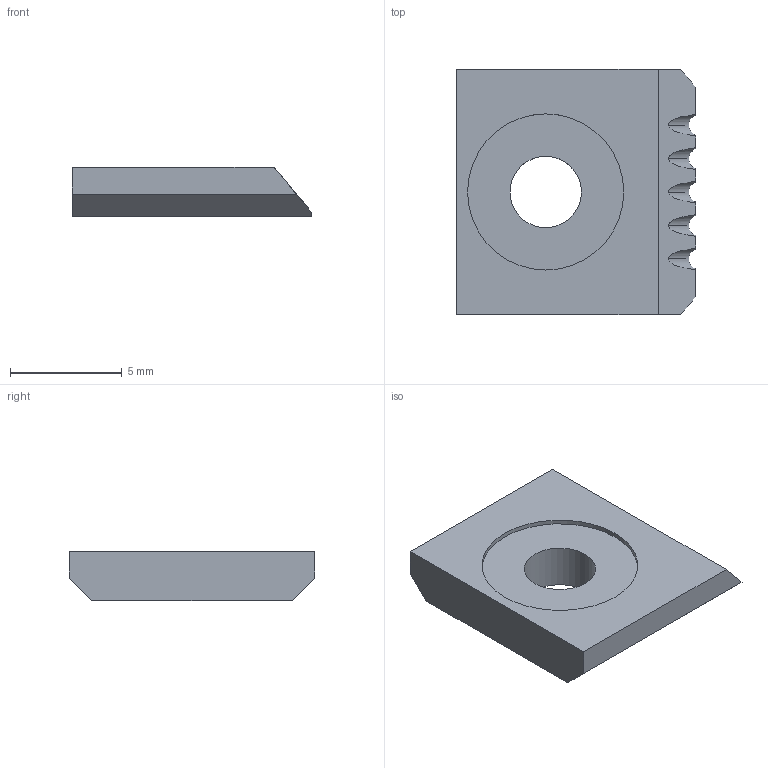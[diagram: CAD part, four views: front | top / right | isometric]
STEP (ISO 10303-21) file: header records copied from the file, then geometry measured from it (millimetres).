
FILE_DESCRIPTION(/* description */ (''),/* implementation_level */ '2;1');
FILE_NAME(/* name */ 'wire-stripper-pro_blade_klinge_v2',/* time_stamp */ '2026-01-18T22:17:09+01:00',/* author */ (''),/* organization */ (''),/* preprocessor_version */ 'ST-DEVELOPER v19.2',/* originating_system */ 'Rhino 8.26',/* authorisation */ '');
FILE_SCHEMA (('CONFIG_CONTROL_DESIGN'));
Length unit declared in the file: millimetre
Products named in the file (1): Document
Bounding box: 10.72 x 11 x 2.2 mm (x, y, z)
Volume: 205.4 mm3; surface area: 309.4 mm2
Topology: 1 solids, 1 shells, 27 faces, 72 edges, 48 vertices
Faces by surface type: plane 15, cylinder 12
Full cylindrical faces by diameter (mm): 3.2 x1, 7 x1
Entity records: 984 total; most frequent: CARTESIAN_POINT 381, ORIENTED_EDGE 144, EDGE_CURVE 72, B_SPLINE_CURVE_WITH_KNOTS 63, VERTEX_POINT 48, DIRECTION 39, AXIS2_PLACEMENT_3D 33, EDGE_LOOP 30
